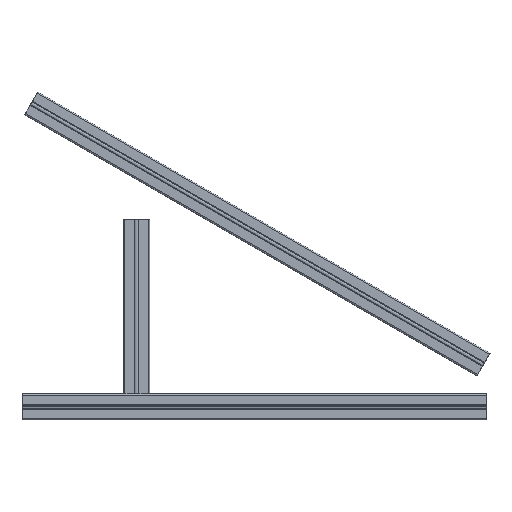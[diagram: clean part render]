
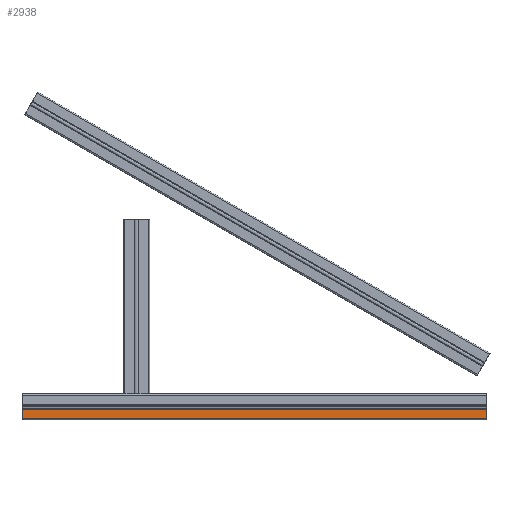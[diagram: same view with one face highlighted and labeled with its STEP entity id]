
A CAD part, top view. The second image highlights one B-rep face of the part: STEP entity #2938.
In plain terms, the highlighted planar face has unit normal (0, 0, 1).
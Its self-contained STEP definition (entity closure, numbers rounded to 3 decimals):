
#2888 = EDGE_CURVE ( 'NONE', #2895, #2896, #8682, .T. ) ;
#2895 = VERTEX_POINT ( 'NONE', #8681 ) ;
#2896 = VERTEX_POINT ( 'NONE', #8676 ) ;
#2932 = EDGE_CURVE ( 'NONE', #2896, #2950, #8726, .T. ) ;
#2934 = VERTEX_POINT ( 'NONE', #8736 ) ;
#2936 = ORIENTED_EDGE ( 'NONE', *, *, #2932, .T. ) ;
#2937 = ORIENTED_EDGE ( 'NONE', *, *, #2888, .T. ) ;
#2938 = ADVANCED_FACE ( 'NONE', ( #8730 ), #8784, .F. ) ;
#2939 = ORIENTED_EDGE ( 'NONE', *, *, #2940, .F. ) ;
#2940 = EDGE_CURVE ( 'NONE', #2934, #2950, #8783, .T. ) ;
#2941 = EDGE_CURVE ( 'NONE', #2895, #2934, #8773, .T. ) ;
#2948 = EDGE_LOOP ( 'NONE', ( #2936, #2939, #2953, #2937 ) ) ;
#2950 = VERTEX_POINT ( 'NONE', #8515 ) ;
#2953 = ORIENTED_EDGE ( 'NONE', *, *, #2941, .F. ) ;
#8515 = CARTESIAN_POINT ( 'NONE',  ( 0., -20., 22.5 ) ) ;
#8668 = DIRECTION ( 'NONE',  ( -1., 0., 0. ) ) ;
#8669 = VECTOR ( 'NONE', #8668, 1000. ) ;
#8670 = CARTESIAN_POINT ( 'NONE',  ( 800., -4.151, 22.5 ) ) ;
#8676 = CARTESIAN_POINT ( 'NONE',  ( 0., -4.151, 22.5 ) ) ;
#8681 = CARTESIAN_POINT ( 'NONE',  ( 800., -4.151, 22.5 ) ) ;
#8682 = LINE ( 'NONE', #8670, #8669 ) ;
#8724 = DIRECTION ( 'NONE',  ( 0., -1., 0. ) ) ;
#8725 = VECTOR ( 'NONE', #8724, 1000. ) ;
#8726 = LINE ( 'NONE', #8735, #8725 ) ;
#8727 = CARTESIAN_POINT ( 'NONE',  ( 800., -4.151, 22.5 ) ) ;
#8729 = CARTESIAN_POINT ( 'NONE',  ( 800., -4.151, 22.5 ) ) ;
#8730 = FACE_OUTER_BOUND ( 'NONE', #2948, .T. ) ;
#8735 = CARTESIAN_POINT ( 'NONE',  ( 0., -4.151, 22.5 ) ) ;
#8736 = CARTESIAN_POINT ( 'NONE',  ( 800., -20., 22.5 ) ) ;
#8743 = AXIS2_PLACEMENT_3D ( 'NONE', #8729, #8782, #8781 ) ;
#8771 = DIRECTION ( 'NONE',  ( 0., -1., 0. ) ) ;
#8772 = VECTOR ( 'NONE', #8771, 1000. ) ;
#8773 = LINE ( 'NONE', #8727, #8772 ) ;
#8777 = DIRECTION ( 'NONE',  ( -1., 0., 0. ) ) ;
#8778 = VECTOR ( 'NONE', #8777, 1000. ) ;
#8779 = CARTESIAN_POINT ( 'NONE',  ( 800., -20., 22.5 ) ) ;
#8781 = DIRECTION ( 'NONE',  ( -1., 0., 0. ) ) ;
#8782 = DIRECTION ( 'NONE',  ( 0., 0., -1. ) ) ;
#8783 = LINE ( 'NONE', #8779, #8778 ) ;
#8784 = PLANE ( 'NONE',  #8743 ) ;
